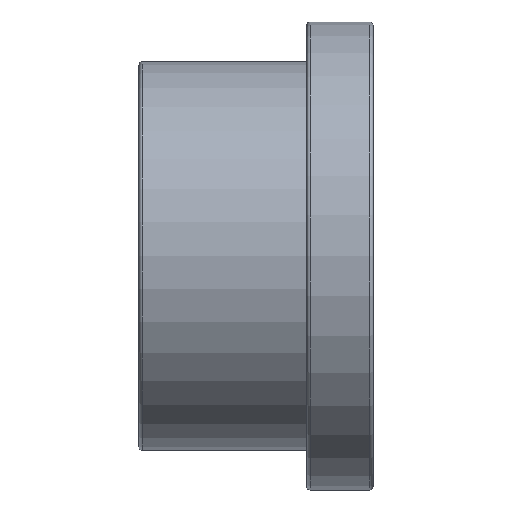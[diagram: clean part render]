
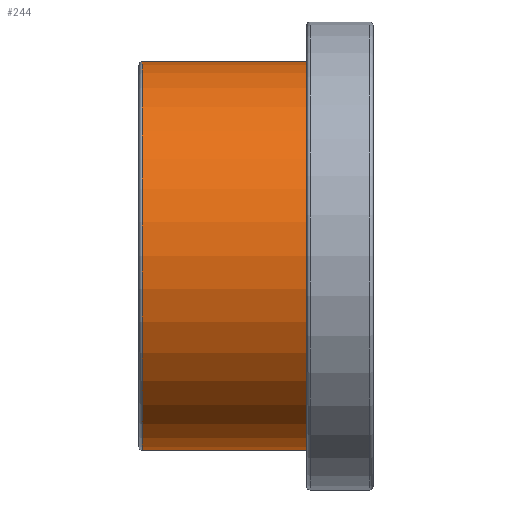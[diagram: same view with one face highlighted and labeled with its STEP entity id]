
A CAD part, top view. The second image highlights one B-rep face of the part: STEP entity #244.
In plain terms, the highlighted cylindrical face has radius 44 mm (diameter 88 mm), a full revolution.
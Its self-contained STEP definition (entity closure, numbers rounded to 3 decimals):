
#20=CYLINDRICAL_SURFACE('',#288,44.);
#46=FACE_BOUND('',#108,.T.);
#67=FACE_OUTER_BOUND('',#107,.T.);
#107=EDGE_LOOP('',(#212));
#108=EDGE_LOOP('',(#213));
#130=CIRCLE('',#285,44.);
#131=CIRCLE('',#287,44.);
#151=VERTEX_POINT('',#433);
#152=VERTEX_POINT('',#436);
#172=EDGE_CURVE('',#151,#151,#130,.T.);
#173=EDGE_CURVE('',#152,#152,#131,.T.);
#212=ORIENTED_EDGE('',*,*,#172,.T.);
#213=ORIENTED_EDGE('',*,*,#173,.F.);
#244=ADVANCED_FACE('',(#67,#46),#20,.T.);
#285=AXIS2_PLACEMENT_3D('',#434,#366,#367);
#287=AXIS2_PLACEMENT_3D('',#437,#370,#371);
#288=AXIS2_PLACEMENT_3D('',#438,#372,#373);
#366=DIRECTION('center_axis',(-1.,0.,0.));
#367=DIRECTION('ref_axis',(0.,0.,1.));
#370=DIRECTION('center_axis',(-1.,0.,0.));
#371=DIRECTION('ref_axis',(0.,1.,0.));
#372=DIRECTION('center_axis',(-1.,0.,0.));
#373=DIRECTION('ref_axis',(0.,-1.,0.));
#433=CARTESIAN_POINT('',(38.,-44.,0.));
#434=CARTESIAN_POINT('Origin',(38.,0.,0.));
#436=CARTESIAN_POINT('',(0.75,-44.,0.));
#437=CARTESIAN_POINT('Origin',(0.75,0.,0.));
#438=CARTESIAN_POINT('Origin',(19.,0.,0.));
